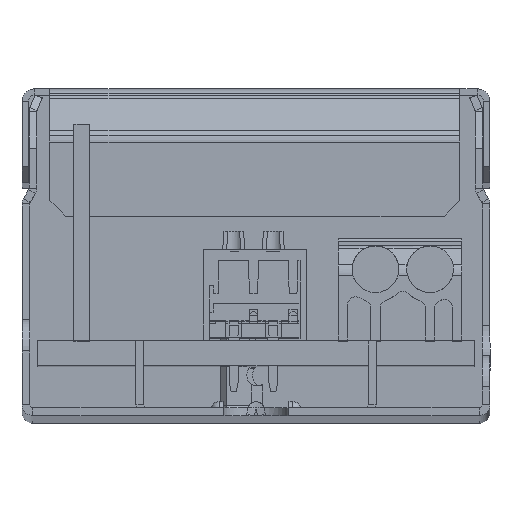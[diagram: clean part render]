
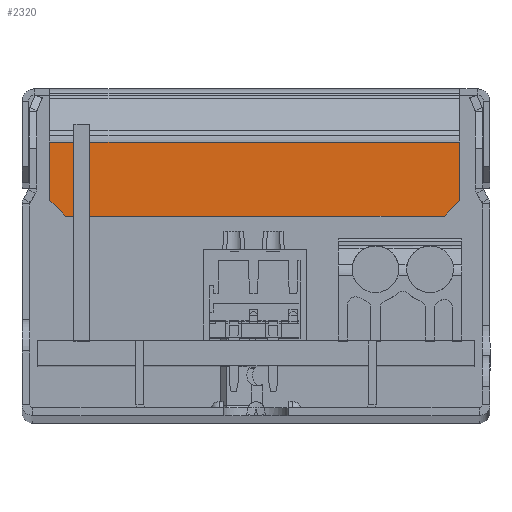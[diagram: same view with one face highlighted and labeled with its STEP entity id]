
A CAD part, top view. The second image highlights one B-rep face of the part: STEP entity #2320.
In plain terms, the highlighted planar face has unit normal (0, 0, 1).
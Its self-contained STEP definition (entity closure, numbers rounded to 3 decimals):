
#440 = CARTESIAN_POINT ( 'NONE',  ( 12.058, 12.835, 111.629 ) ) ;
#1328 = CARTESIAN_POINT ( 'NONE',  ( -12.213, 12.835, 111.629 ) ) ;
#2320 = ADVANCED_FACE ( 'NONE', ( #9930 ), #3958, .F. ) ;
#3958 = PLANE ( 'NONE',  #10747 ) ;
#4595 = DIRECTION ( 'NONE',  ( 0.707, 0.707, 0. ) ) ;
#4623 = ORIENTED_EDGE ( 'NONE', *, *, #12347, .T. ) ;
#4865 = LINE ( 'NONE', #27465, #37848 ) ;
#5259 = DIRECTION ( 'NONE',  ( -1., 0., 0. ) ) ;
#5482 = CARTESIAN_POINT ( 'NONE',  ( 13.058, 17.571, 111.629 ) ) ;
#5877 = CARTESIAN_POINT ( 'NONE',  ( -13.213, 17.84, 111.629 ) ) ;
#6860 = CARTESIAN_POINT ( 'NONE',  ( 13.058, 13.835, 111.629 ) ) ;
#8056 = LINE ( 'NONE', #5482, #30701 ) ;
#9246 = VERTEX_POINT ( 'NONE', #440 ) ;
#9930 = FACE_OUTER_BOUND ( 'NONE', #40909, .T. ) ;
#10136 = DIRECTION ( 'NONE',  ( 0., -1., 0. ) ) ;
#10557 = DIRECTION ( 'NONE',  ( 0., 0., -1. ) ) ;
#10747 = AXIS2_PLACEMENT_3D ( 'NONE', #39797, #10557, #10136 ) ;
#10801 = ORIENTED_EDGE ( 'NONE', *, *, #30587, .F. ) ;
#12347 = EDGE_CURVE ( 'NONE', #22644, #33627, #27129, .T. ) ;
#12702 = VECTOR ( 'NONE', #39166, 1000. ) ;
#13943 = EDGE_CURVE ( 'NONE', #9246, #24531, #27815, .T. ) ;
#14787 = EDGE_CURVE ( 'NONE', #33419, #29735, #8056, .T. ) ;
#17220 = VECTOR ( 'NONE', #4595, 1000. ) ;
#17579 = CARTESIAN_POINT ( 'NONE',  ( 13.058, 13.835, 111.629 ) ) ;
#18410 = LINE ( 'NONE', #37422, #28989 ) ;
#18875 = EDGE_CURVE ( 'NONE', #22644, #33419, #35101, .T. ) ;
#21720 = CARTESIAN_POINT ( 'NONE',  ( -13.213, 17.571, 111.629 ) ) ;
#22644 = VERTEX_POINT ( 'NONE', #28281 ) ;
#24531 = VERTEX_POINT ( 'NONE', #6860 ) ;
#26056 = ORIENTED_EDGE ( 'NONE', *, *, #29015, .F. ) ;
#27129 = LINE ( 'NONE', #1328, #39701 ) ;
#27465 = CARTESIAN_POINT ( 'NONE',  ( -13.213, 12.835, 111.629 ) ) ;
#27621 = DIRECTION ( 'NONE',  ( 0., -1., 0. ) ) ;
#27815 = LINE ( 'NONE', #17579, #17220 ) ;
#28281 = CARTESIAN_POINT ( 'NONE',  ( -13.213, 13.835, 111.629 ) ) ;
#28989 = VECTOR ( 'NONE', #27621, 1000. ) ;
#29015 = EDGE_CURVE ( 'NONE', #9246, #33627, #4865, .T. ) ;
#29086 = ORIENTED_EDGE ( 'NONE', *, *, #14787, .F. ) ;
#29650 = ORIENTED_EDGE ( 'NONE', *, *, #18875, .F. ) ;
#29735 = VERTEX_POINT ( 'NONE', #36916 ) ;
#30553 = DIRECTION ( 'NONE',  ( 0.707, -0.707, 0. ) ) ;
#30587 = EDGE_CURVE ( 'NONE', #29735, #24531, #18410, .T. ) ;
#30701 = VECTOR ( 'NONE', #31290, 1000. ) ;
#30808 = ORIENTED_EDGE ( 'NONE', *, *, #13943, .T. ) ;
#31290 = DIRECTION ( 'NONE',  ( 1., 0., 0. ) ) ;
#33419 = VERTEX_POINT ( 'NONE', #21720 ) ;
#33627 = VERTEX_POINT ( 'NONE', #38590 ) ;
#35101 = LINE ( 'NONE', #5877, #12702 ) ;
#36916 = CARTESIAN_POINT ( 'NONE',  ( 13.058, 17.571, 111.629 ) ) ;
#37422 = CARTESIAN_POINT ( 'NONE',  ( 13.058, 12.835, 111.629 ) ) ;
#37848 = VECTOR ( 'NONE', #5259, 1000. ) ;
#38590 = CARTESIAN_POINT ( 'NONE',  ( -12.213, 12.835, 111.629 ) ) ;
#39166 = DIRECTION ( 'NONE',  ( 0., 1., 0. ) ) ;
#39701 = VECTOR ( 'NONE', #30553, 1000. ) ;
#39797 = CARTESIAN_POINT ( 'NONE',  ( 0., -0.203, 111.629 ) ) ;
#40909 = EDGE_LOOP ( 'NONE', ( #26056, #30808, #10801, #29086, #29650, #4623 ) ) ;
